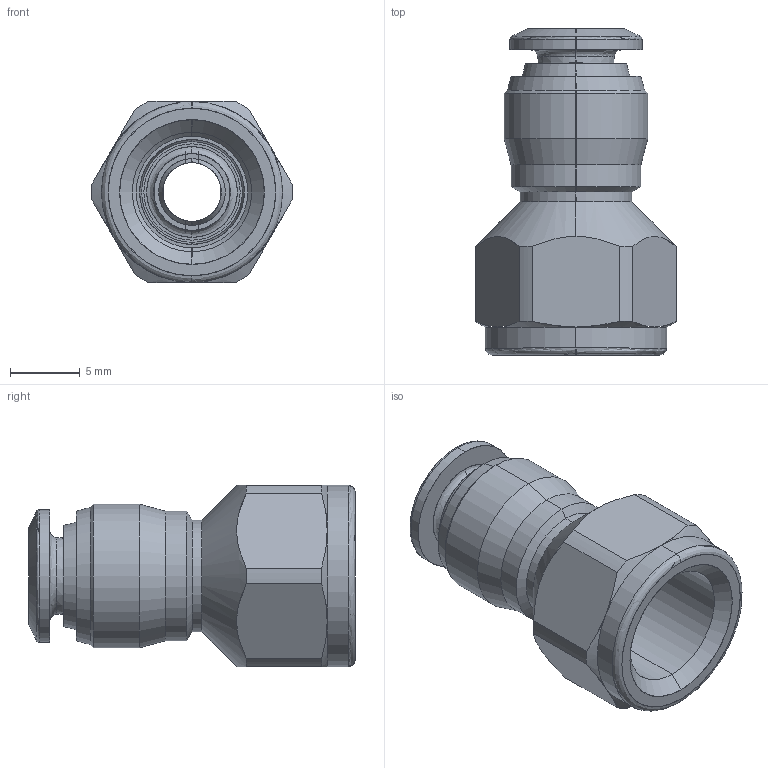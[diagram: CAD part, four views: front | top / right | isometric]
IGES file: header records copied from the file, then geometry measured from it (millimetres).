
Start section: SolidWorks IGES file using analytic representation for surfaces
Global section: file name: C:\Users\cad06\Desktop\Nuova cartella\40030V0001A.IGS; native system: SolidWorks 2016; preprocessor: SolidWorks 2016; author: cad06; date: 160516.134554; units: millimetre
Bounding box: 14.39 x 23.4 x 13 mm (x, y, z)
Surface area: 1460.3 mm2 (no closed solid volume)
Topology: 0 solids, 0 shells, 74 faces, 800 edges, 800 vertices
Faces by surface type: revolution 52, bspline 22
